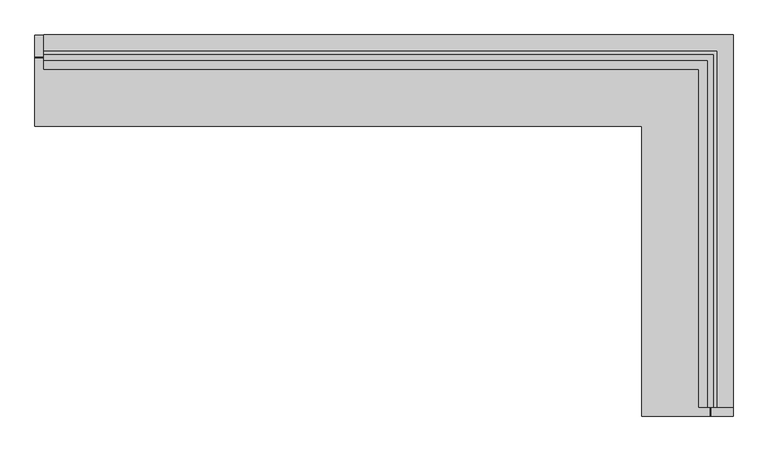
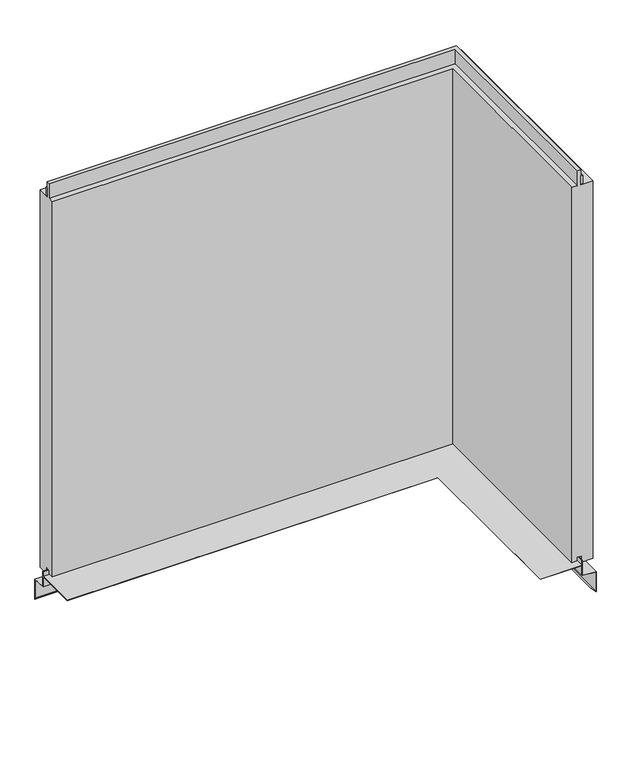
"""IFC4 building model written with IfcOpenShell, lengths in millimetres: plate geometry, Trimo_Qbiss Screen_L Corner Panel-HORIZONTAL : HR - B."""

import ifcopenshell
import ifcopenshell.guid

model = None  # the IFC model being written
_history = None  # IfcOwnerHistory: only IFC2X3 demands one
_inside = {}  # id of a spatial element -> (the spatial element, [elements in it])
_under = {}  # id of a project, library or spatial element -> (it, [spatial elements below it])
_declared = {}  # id of a project -> (the project, [libraries it declares])
_typed = {}  # id of a type object -> (the type object, [elements of that type])
_made_of = {}  # id of a material, layer set ... -> (it, [elements and type objects made of it])


def new_model(schema):
    """Start an empty IFC model of exactly this schema.

    Asked for "IFC4X3", IfcOpenShell would pick the latest addendum, in which some entities
    have other attributes; the version numbers below select the first issue.
    IFC2X3 requires an IfcOwnerHistory on every rooted entity: one is made here for all.
    """
    global model, _history
    if schema == "IFC4X3":
        model = ifcopenshell.file(schema_version=(4, 3, 0, 0))
    else:
        model = ifcopenshell.file(schema=schema)
    _inside.clear()
    _under.clear()
    _declared.clear()
    _typed.clear()
    _made_of.clear()
    _history = None
    if model.schema == "IFC2X3":
        org = make("IfcOrganization", Name="unknown")
        user = make(
            "IfcPersonAndOrganization",
            ThePerson=make("IfcPerson", FamilyName="unknown"),
            TheOrganization=org,
        )
        app = make(
            "IfcApplication",
            ApplicationDeveloper=org,
            Version="unknown",
            ApplicationFullName="unknown",
            ApplicationIdentifier="unknown",
        )
        _history = make(
            "IfcOwnerHistory",
            OwningUser=user,
            OwningApplication=app,
            ChangeAction="ADDED",
            CreationDate=0,
        )
    return model


def make(cls, **values):
    """One entity of the class cls with the attributes given. An attribute that is None is left unset."""
    return model.create_entity(
        cls, **{name: value for name, value in values.items() if value is not None}
    )


def rooted(cls, **values):
    """An entity with a GlobalId (a new one), such as an element, a storey or a relation."""
    return make(cls, GlobalId=ifcopenshell.guid.new(), OwnerHistory=_history, **values)


def si_unit(unit_type, name, prefix=None):
    """IfcSIUnit, for example si_unit("LENGTHUNIT", "METRE", prefix="MILLI")."""
    return make("IfcSIUnit", UnitType=unit_type, Prefix=prefix, Name=name)


def assignment(units):
    """IfcUnitAssignment: the units of a project."""
    return None if units is None else make("IfcUnitAssignment", Units=units)


def point(xyz):
    """IfcCartesianPoint."""
    return None if xyz is None else make("IfcCartesianPoint", Coordinates=xyz)


def direction(xyz):
    """IfcDirection."""
    return None if xyz is None else make("IfcDirection", DirectionRatios=xyz)


def frame(location, z_axis=None, x_axis=None):
    """IfcAxis2Placement3D, a coordinate frame: its origin and axes. An axis left out is left unset."""
    return make(
        "IfcAxis2Placement3D",
        Location=point(location),
        Axis=direction(z_axis),
        RefDirection=direction(x_axis),
    )


def origin():
    """The frame at (0, 0, 0) with its axes left unset."""
    return frame((0.0, 0.0, 0.0))


def place(relative_to, where):
    """IfcLocalPlacement: puts the frame where relative to a parent placement (None: the world)."""
    return make(
        "IfcLocalPlacement", PlacementRelTo=relative_to, RelativePlacement=where
    )


def context(
    kind, dimensions, precision=None, world=None, true_north=None, identifier=None
):
    """IfcGeometricRepresentationContext, for example the 3D "Model" context."""
    return make(
        "IfcGeometricRepresentationContext",
        ContextIdentifier=identifier,
        ContextType=kind,
        CoordinateSpaceDimension=dimensions,
        Precision=precision,
        WorldCoordinateSystem=world,
        TrueNorth=true_north,
    )


def project(units=None, contexts=None):
    """IfcProject with its units and contexts."""
    return rooted(
        "IfcProject",
        Name="project",
        RepresentationContexts=contexts,
        UnitsInContext=assignment(units),
    )


def spatial(cls, under=None, at=None, **own):
    """A site, building, storey or space (cls), placed at a placement, below another one or the project."""
    s = rooted(cls, ObjectPlacement=at, **own)
    if under is not None:
        _under.setdefault(under.id(), (under, []))[1].append(s)
    return s


def polyline(points):
    """IfcPolyline through the points."""
    return make("IfcPolyline", Points=[point(p) for p in points])


def outline(outer, holes=None, kind="AREA"):
    """IfcArbitraryClosedProfileDef: a profile drawn as a closed curve; with holes, ...WithVoids."""
    if holes is None:
        return make("IfcArbitraryClosedProfileDef", ProfileType=kind, OuterCurve=outer)
    return make(
        "IfcArbitraryProfileDefWithVoids",
        ProfileType=kind,
        OuterCurve=outer,
        InnerCurves=holes,
    )


def extrude(swept, where, along, depth):
    """IfcExtrudedAreaSolid: the profile swept, set in the frame where, extruded along a direction by depth."""
    return make(
        "IfcExtrudedAreaSolid",
        SweptArea=swept,
        Position=where,
        ExtrudedDirection=direction(along),
        Depth=depth,
    )


def faces_of(points, faces, orient=None, outer=None):
    """IfcFace entities. A face is a list of loops; a loop is a list of indices into points, from 0.

    orient and outer hold one flag for each loop. By default every Orientation is true, the
    first loop of a face is its IfcFaceOuterBound and the others are IfcFaceBound.
    """
    made = []
    for i, loops in enumerate(faces):
        bounds = []
        for j, loop in enumerate(loops):
            is_outer = j == 0 if outer is None else outer[i][j]
            bounds.append(
                make(
                    "IfcFaceOuterBound" if is_outer else "IfcFaceBound",
                    Bound=make("IfcPolyLoop", Polygon=[points[k] for k in loop]),
                    Orientation=True if orient is None else orient[i][j],
                )
            )
        made.append(make("IfcFace", Bounds=bounds))
    return made


def faceted_brep(points, faces, orient=None, outer=None, voids=None):
    """IfcFacetedBrep: a solid bounded by flat faces; with voids (closed shells), ...WithVoids."""
    shared = [point(p) for p in points]
    hull = make("IfcClosedShell", CfsFaces=faces_of(shared, faces, orient, outer))
    if voids is None:
        return make("IfcFacetedBrep", Outer=hull)
    return make(
        "IfcFacetedBrepWithVoids",
        Outer=hull,
        Voids=[
            make(cls, CfsFaces=faces_of(shared, fs, o, b)) for cls, fs, o, b in voids
        ],
    )


def shape(context_of_items, identifier, shape_type, items):
    """IfcShapeRepresentation: the items that make up one representation, for example the "Body"."""
    return make(
        "IfcShapeRepresentation",
        ContextOfItems=context_of_items,
        RepresentationIdentifier=identifier,
        RepresentationType=shape_type,
        Items=items,
    )


def source(mapping_origin, context_of_items, identifier, shape_type, items):
    """IfcRepresentationMap: a shape defined once, which mapped items show again and again."""
    return make(
        "IfcRepresentationMap",
        MappingOrigin=mapping_origin,
        MappedRepresentation=shape(context_of_items, identifier, shape_type, items),
    )


def transform(
    local_origin,
    x_axis=None,
    y_axis=None,
    z_axis=None,
    scale=None,
    scale2=None,
    scale3=None,
    uniform=True,
):
    """IfcCartesianTransformationOperator3D, or its non-uniform kind. x_axis, y_axis, z_axis: its Axis1, 2, 3."""
    if uniform:
        return make(
            "IfcCartesianTransformationOperator3D",
            Axis1=direction(x_axis),
            Axis2=direction(y_axis),
            LocalOrigin=point(local_origin),
            Scale=scale,
            Axis3=direction(z_axis),
        )
    return make(
        "IfcCartesianTransformationOperator3DnonUniform",
        Axis1=direction(x_axis),
        Axis2=direction(y_axis),
        LocalOrigin=point(local_origin),
        Scale=scale,
        Axis3=direction(z_axis),
        Scale2=scale2,
        Scale3=scale3,
    )


def mapped(mapping_source, mapping_target):
    """IfcMappedItem: shows the shape of a source again, moved by a transform."""
    return make(
        "IfcMappedItem", MappingSource=mapping_source, MappingTarget=mapping_target
    )


def made_of(thing, what):
    """Note that an element or type object is made of a material, layer set ...; save() writes the relation."""
    if what is not None:
        _made_of.setdefault(what.id(), (what, []))[1].append(thing)
    return thing


def element(
    cls,
    number,
    at=None,
    inside=None,
    cuts=None,
    type_object=None,
    material=None,
    context=None,
    identifier="Body",
    shape_type=None,
    held_by="IfcProductDefinitionShape",
    body=None,
    shapes=None,
    **own,
):
    """One element of the class cls, such as IfcWall. Its Tag is "e" and its number.

    at: its placement. inside: the storey or other place that contains it. cuts: it is an
    opening in that element (IfcRelVoidsElement). A single representation is given by context,
    identifier, shape_type and body (its items); several are given by shapes. held_by: the class
    of the entity that holds the representations. save() writes the other relations.
    """
    e = rooted(cls, Tag="e%d" % number, ObjectPlacement=at, **own)
    if body is not None:
        shapes = [shape(context, identifier, shape_type, body)]
    if shapes is not None:
        e.Representation = make(held_by, Representations=shapes)
    if inside is not None:
        _inside.setdefault(inside.id(), (inside, []))[1].append(e)
    if cuts is not None:
        rooted(
            "IfcRelVoidsElement", RelatingBuildingElement=cuts, RelatedOpeningElement=e
        )
    if type_object is not None:
        _typed.setdefault(type_object.id(), (type_object, []))[1].append(e)
    return made_of(e, material)


def aggregate(whole, parts):
    """IfcRelAggregates: a whole, such as a stair, and the parts it consists of."""
    return rooted("IfcRelAggregates", RelatingObject=whole, RelatedObjects=parts)


def save(model, path):
    """Write the relations noted so far, then the file.

    IfcRelAggregates (storeys below a building ...), IfcRelContainedInSpatialStructure (elements
    in a storey), IfcRelDefinesByType, IfcRelAssociatesMaterial and IfcRelDeclares: one each for
    every whole, place, type object, material and project.
    """
    for whole, parts in _under.values():
        aggregate(whole, parts)
    for where, things in _inside.values():
        rooted(
            "IfcRelContainedInSpatialStructure",
            RelatedElements=things,
            RelatingStructure=where,
        )
    for kind, things in _typed.values():
        rooted("IfcRelDefinesByType", RelatedObjects=things, RelatingType=kind)
    for what, things in _made_of.values():
        rooted("IfcRelAssociatesMaterial", RelatedObjects=things, RelatingMaterial=what)
    for by, libraries in _declared.values():
        rooted("IfcRelDeclares", RelatingContext=by, RelatedDefinitions=libraries)
    model.write(path)


def plate_13683502(model_context):
    return source(origin(), model_context, "Body", "SolidModel", [
        faceted_brep([(-456.25, 66.7, 14.0835797), (522.95, 66.7, 14.0835797), (522.95, -452.5, 14.0835797), (523.75, -452.5, 14.0835797), (523.75, 67.5, 14.0835797), (-456.25, 67.5, 14.0835797), (523.75, 67.5, -23.0), (-456.25, 67.5, -23.0), (556.25, 100.0, -25.8433816), (-456.25, 100.0, -25.8433816), (556.25, 100.0, -76.0), (-456.25, 100.0, -76.0), (543.4009533, 87.1509533, -63.1509533), (-456.25, 87.1509533, -63.1509533), (543.9666388, 87.7166388, -62.5852679), (-456.25, 87.7166388, -62.5852679), (555.45, 99.2, -74.0686292), (-456.25, 99.2, -74.0686292), (555.45, 99.2, -26.5764465), (-456.25, 99.2, -26.5764465), (522.95, 66.7, -23.7330649), (-456.25, 66.7, -23.7330649), (522.95, 66.7, 1.0), (-456.25, 66.7, 1.0), (522.95, -452.5, 1.0), (423.75, -452.5, 1.0), (423.75, -32.5, 1.0), (-456.25, -32.5, 1.0), (-456.25, -32.5, 1.8), (423.75, -32.5, 1.8), (423.75, -452.5, 1.8), (522.95, -452.5, 1.8), (522.95, 66.7, 1.8), (-456.25, 66.7, 1.8), (523.75, -452.5, -23.0), (556.25, -452.5, -25.8433816), (556.25, -452.5, -76.0), (543.4009533, -452.5, -63.1509533), (543.9666388, -452.5, -62.5852679), (555.45, -452.5, -74.0686292), (555.45, -452.5, -26.5764465), (522.95, -452.5, -23.7330649)], [[[0, 1, 2, 3, 4, 5]], [[4, 6, 7, 5]], [[6, 8, 9, 7]], [[8, 10, 11, 9]], [[10, 12, 13, 11]], [[12, 14, 15, 13]], [[14, 16, 17, 15]], [[16, 18, 19, 17]], [[18, 20, 21, 19]], [[20, 22, 23, 21]], [[23, 22, 24, 25, 26, 27]], [[28, 29, 30, 31, 32, 33]], [[32, 1, 0, 33]], [[6, 4, 3, 34]], [[8, 6, 34, 35]], [[10, 8, 35, 36]], [[12, 10, 36, 37]], [[14, 12, 37, 38]], [[16, 14, 38, 39]], [[18, 16, 39, 40]], [[20, 18, 40, 41]], [[22, 20, 41, 24]], [[1, 32, 31, 2]], [[0, 5, 7, 9, 11, 13, 15, 17, 19, 21, 23, 27, 28, 33]], [[3, 2, 31, 30, 25, 24, 41, 40, 39, 38, 37, 36, 35, 34]], [[26, 29, 28, 27]], [[29, 26, 25, 30]]]),
        extrude(outline(polyline([(-443.75, 71.0), (-443.75, 76.0), (532.25, 76.0), (532.25, -440.0), (527.25, -440.0), (527.25, 71.0), (-443.75, 71.0)])), frame((0.0, 0.0, 948.0), z_axis=(0.0, 0.0, 1.0), x_axis=(1.0, 0.0, 0.0)), (0.0, 0.0, 1.0), 21.0),
        faceted_brep([(-443.75, 71.0, 947.0), (-443.75, 100.0, 947.0), (-443.75, 100.0, 0.0), (-443.75, 72.0, 0.0), (-443.75, 72.0, 15.5), (-443.75, 62.0, 15.5), (-443.75, 62.0, 7.0), (-443.75, 50.0, 7.0), (-443.75, 50.0, 947.0), (-443.75, 63.0, 947.0), (-443.75, 63.0, 984.5), (-443.75, 71.0, 984.5), (527.25, 71.0, 947.0), (527.25, -440.0, 947.0), (556.25, -440.0, 947.0), (556.25, 100.0, 947.0), (556.25, 100.0, 0.0), (556.25, -440.0, 0.0), (528.25, -440.0, 0.0), (528.25, 72.0, 0.0), (528.25, 72.0, 15.5), (528.25, -440.0, 15.5), (518.25, -440.0, 15.5), (518.25, 62.0, 15.5), (518.25, 62.0, 7.0), (518.25, -440.0, 7.0), (506.25, -440.0, 7.0), (506.25, 50.0, 7.0), (506.25, 50.0, 947.0), (506.25, -440.0, 947.0), (519.25, -440.0, 947.0), (519.25, 63.0, 947.0), (519.25, 63.0, 984.5), (519.25, -440.0, 984.5), (527.25, -440.0, 984.5), (527.25, 71.0, 984.5)], [[[0, 1, 2, 3, 4, 5, 6, 7, 8, 9, 10, 11]], [[1, 0, 12, 13, 14, 15]], [[2, 1, 15, 16]], [[3, 2, 16, 17, 18, 19]], [[4, 3, 19, 20]], [[5, 4, 20, 21, 22, 23]], [[6, 5, 23, 24]], [[7, 6, 24, 25, 26, 27]], [[8, 7, 27, 28]], [[9, 8, 28, 29, 30, 31]], [[10, 9, 31, 32]], [[11, 10, 32, 33, 34, 35]], [[0, 11, 35, 12]], [[13, 34, 33, 30, 29, 26, 25, 22, 21, 18, 17, 14]], [[16, 15, 14, 17]], [[20, 19, 18, 21]], [[24, 23, 22, 25]], [[28, 27, 26, 29]], [[32, 31, 30, 33]], [[12, 35, 34, 13]]]),
    ])


if __name__ == "__main__":
    model = new_model("IFC4")
    model_context = context("Model", 3, world=origin())
    ifc_project = project(units=[si_unit("LENGTHUNIT", "METRE", prefix="MILLI")], contexts=[model_context])
    site = spatial("IfcSite", under=ifc_project)
    building = spatial("IfcBuilding", under=site)
    placement = place(None, origin())
    plate_shape = plate_13683502(model_context)
    element("IfcPlate", 1, ObjectType="Trimo_Qbiss Screen_L Corner Panel-HORIZONTAL : HR - B", at=placement, inside=building, context=model_context, shape_type="MappedRepresentation", body=[
        mapped(plate_shape, transform((0.0, 0.0, 0.0), x_axis=(1.0, 0.0, 0.0), y_axis=(0.0, 1.0, 0.0), z_axis=(0.0, 0.0, 1.0))),
    ])
    save(model, "model.ifc")
